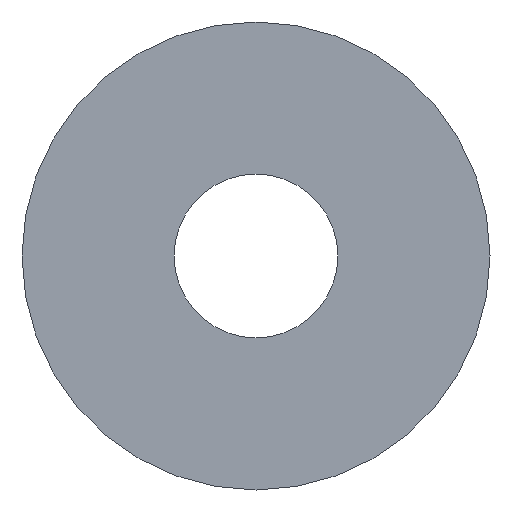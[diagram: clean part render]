
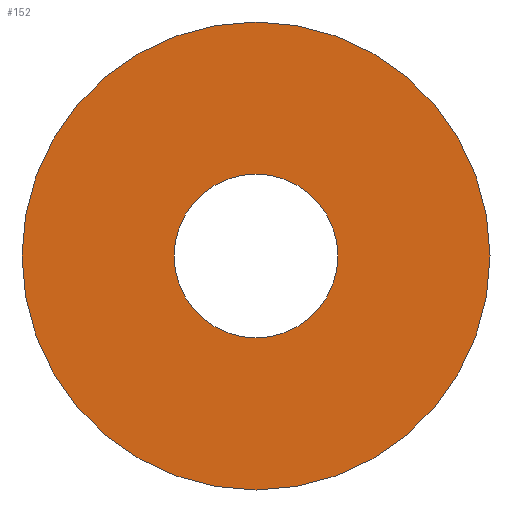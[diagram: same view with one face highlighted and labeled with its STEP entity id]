
A CAD part, front view. The second image highlights one B-rep face of the part: STEP entity #152.
In plain terms, the highlighted planar face has unit normal (0, -1, 0).
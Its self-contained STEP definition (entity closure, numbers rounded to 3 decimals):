
#2 = CIRCLE ( 'NONE', #202, 15. ) ;
#6 = VERTEX_POINT ( 'NONE', #43 ) ;
#8 = AXIS2_PLACEMENT_3D ( 'NONE', #203, #36, #60 ) ;
#9 = FACE_OUTER_BOUND ( 'NONE', #180, .T. ) ;
#11 = ORIENTED_EDGE ( 'NONE', *, *, #50, .T. ) ;
#12 = DIRECTION ( 'NONE',  ( 0., 0., 1. ) ) ;
#20 = CARTESIAN_POINT ( 'NONE',  ( 0., 0., 15. ) ) ;
#22 = VERTEX_POINT ( 'NONE', #232 ) ;
#36 = DIRECTION ( 'NONE',  ( 0., 1., 0. ) ) ;
#43 = CARTESIAN_POINT ( 'NONE',  ( 0., 0., 5.25 ) ) ;
#47 = VERTEX_POINT ( 'NONE', #220 ) ;
#50 = EDGE_CURVE ( 'NONE', #6, #22, #68, .T. ) ;
#60 = DIRECTION ( 'NONE',  ( 0., 0., 1. ) ) ;
#62 = AXIS2_PLACEMENT_3D ( 'NONE', #207, #246, #72 ) ;
#68 = CIRCLE ( 'NONE', #62, 5.25 ) ;
#71 = EDGE_CURVE ( 'NONE', #22, #6, #158, .T. ) ;
#72 = DIRECTION ( 'NONE',  ( 0., 0., 1. ) ) ;
#75 = ORIENTED_EDGE ( 'NONE', *, *, #71, .T. ) ;
#84 = DIRECTION ( 'NONE',  ( 0., 1., 0. ) ) ;
#87 = CARTESIAN_POINT ( 'NONE',  ( 0., 0., 0. ) ) ;
#106 = ORIENTED_EDGE ( 'NONE', *, *, #162, .F. ) ;
#124 = CIRCLE ( 'NONE', #224, 15. ) ;
#146 = DIRECTION ( 'NONE',  ( 0., 1., 0. ) ) ;
#151 = EDGE_CURVE ( 'NONE', #163, #47, #124, .T. ) ;
#152 = ADVANCED_FACE ( 'NONE', ( #9, #172 ), #160, .F. ) ;
#158 = CIRCLE ( 'NONE', #8, 5.25 ) ;
#160 = PLANE ( 'NONE',  #186 ) ;
#162 = EDGE_CURVE ( 'NONE', #47, #163, #2, .T. ) ;
#163 = VERTEX_POINT ( 'NONE', #20 ) ;
#172 = FACE_BOUND ( 'NONE', #188, .T. ) ;
#180 = EDGE_LOOP ( 'NONE', ( #106, #209 ) ) ;
#186 = AXIS2_PLACEMENT_3D ( 'NONE', #87, #146, #12 ) ;
#188 = EDGE_LOOP ( 'NONE', ( #75, #11 ) ) ;
#189 = DIRECTION ( 'NONE',  ( 0., 1., 0. ) ) ;
#202 = AXIS2_PLACEMENT_3D ( 'NONE', #243, #84, #222 ) ;
#203 = CARTESIAN_POINT ( 'NONE',  ( 0., 0., 0. ) ) ;
#205 = CARTESIAN_POINT ( 'NONE',  ( 0., 0., 0. ) ) ;
#207 = CARTESIAN_POINT ( 'NONE',  ( 0., 0., 0. ) ) ;
#209 = ORIENTED_EDGE ( 'NONE', *, *, #151, .F. ) ;
#220 = CARTESIAN_POINT ( 'NONE',  ( 0., 0., -15. ) ) ;
#222 = DIRECTION ( 'NONE',  ( 0., 0., 1. ) ) ;
#224 = AXIS2_PLACEMENT_3D ( 'NONE', #205, #189, #228 ) ;
#228 = DIRECTION ( 'NONE',  ( 0., 0., 1. ) ) ;
#232 = CARTESIAN_POINT ( 'NONE',  ( 0., 0., -5.25 ) ) ;
#243 = CARTESIAN_POINT ( 'NONE',  ( 0., 0., 0. ) ) ;
#246 = DIRECTION ( 'NONE',  ( 0., 1., 0. ) ) ;
